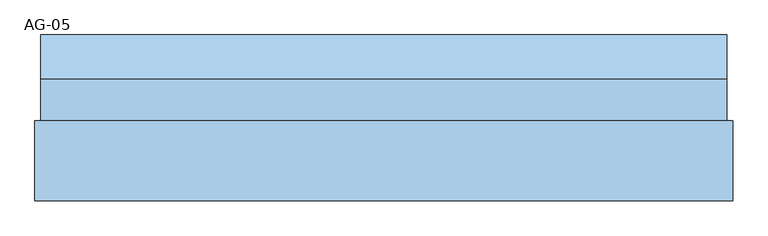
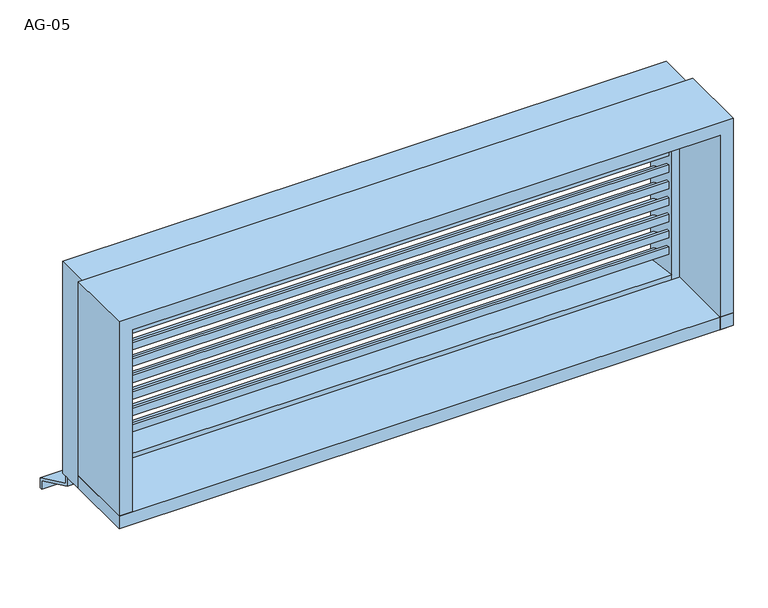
"""IFC4 building model written with IfcOpenShell, lengths in millimetres: window geometry, 営_単窓_ガラリ : AG-05."""

import ifcopenshell
import ifcopenshell.guid

model = None  # the IFC model being written
_history = None  # IfcOwnerHistory: only IFC2X3 demands one
_inside = {}  # id of a spatial element -> (the spatial element, [elements in it])
_under = {}  # id of a project, library or spatial element -> (it, [spatial elements below it])
_declared = {}  # id of a project -> (the project, [libraries it declares])
_typed = {}  # id of a type object -> (the type object, [elements of that type])
_made_of = {}  # id of a material, layer set ... -> (it, [elements and type objects made of it])


def new_model(schema):
    """Start an empty IFC model of exactly this schema.

    Asked for "IFC4X3", IfcOpenShell would pick the latest addendum, in which some entities
    have other attributes; the version numbers below select the first issue.
    IFC2X3 requires an IfcOwnerHistory on every rooted entity: one is made here for all.
    """
    global model, _history
    if schema == "IFC4X3":
        model = ifcopenshell.file(schema_version=(4, 3, 0, 0))
    else:
        model = ifcopenshell.file(schema=schema)
    _inside.clear()
    _under.clear()
    _declared.clear()
    _typed.clear()
    _made_of.clear()
    _history = None
    if model.schema == "IFC2X3":
        org = make("IfcOrganization", Name="unknown")
        user = make(
            "IfcPersonAndOrganization",
            ThePerson=make("IfcPerson", FamilyName="unknown"),
            TheOrganization=org,
        )
        app = make(
            "IfcApplication",
            ApplicationDeveloper=org,
            Version="unknown",
            ApplicationFullName="unknown",
            ApplicationIdentifier="unknown",
        )
        _history = make(
            "IfcOwnerHistory",
            OwningUser=user,
            OwningApplication=app,
            ChangeAction="ADDED",
            CreationDate=0,
        )
    return model


def make(cls, **values):
    """One entity of the class cls with the attributes given. An attribute that is None is left unset."""
    return model.create_entity(
        cls, **{name: value for name, value in values.items() if value is not None}
    )


def rooted(cls, **values):
    """An entity with a GlobalId (a new one), such as an element, a storey or a relation."""
    return make(cls, GlobalId=ifcopenshell.guid.new(), OwnerHistory=_history, **values)


def si_unit(unit_type, name, prefix=None):
    """IfcSIUnit, for example si_unit("LENGTHUNIT", "METRE", prefix="MILLI")."""
    return make("IfcSIUnit", UnitType=unit_type, Prefix=prefix, Name=name)


def assignment(units):
    """IfcUnitAssignment: the units of a project."""
    return None if units is None else make("IfcUnitAssignment", Units=units)


def point(xyz):
    """IfcCartesianPoint."""
    return None if xyz is None else make("IfcCartesianPoint", Coordinates=xyz)


def direction(xyz):
    """IfcDirection."""
    return None if xyz is None else make("IfcDirection", DirectionRatios=xyz)


def frame(location, z_axis=None, x_axis=None):
    """IfcAxis2Placement3D, a coordinate frame: its origin and axes. An axis left out is left unset."""
    return make(
        "IfcAxis2Placement3D",
        Location=point(location),
        Axis=direction(z_axis),
        RefDirection=direction(x_axis),
    )


def origin():
    """The frame at (0, 0, 0) with its axes left unset."""
    return frame((0.0, 0.0, 0.0))


def place(relative_to, where):
    """IfcLocalPlacement: puts the frame where relative to a parent placement (None: the world)."""
    return make(
        "IfcLocalPlacement", PlacementRelTo=relative_to, RelativePlacement=where
    )


def context(
    kind, dimensions, precision=None, world=None, true_north=None, identifier=None
):
    """IfcGeometricRepresentationContext, for example the 3D "Model" context."""
    return make(
        "IfcGeometricRepresentationContext",
        ContextIdentifier=identifier,
        ContextType=kind,
        CoordinateSpaceDimension=dimensions,
        Precision=precision,
        WorldCoordinateSystem=world,
        TrueNorth=true_north,
    )


def project(units=None, contexts=None):
    """IfcProject with its units and contexts."""
    return rooted(
        "IfcProject",
        Name="project",
        RepresentationContexts=contexts,
        UnitsInContext=assignment(units),
    )


def spatial(cls, under=None, at=None, **own):
    """A site, building, storey or space (cls), placed at a placement, below another one or the project."""
    s = rooted(cls, ObjectPlacement=at, **own)
    if under is not None:
        _under.setdefault(under.id(), (under, []))[1].append(s)
    return s


def polyline(points):
    """IfcPolyline through the points."""
    return make("IfcPolyline", Points=[point(p) for p in points])


def outline(outer, holes=None, kind="AREA"):
    """IfcArbitraryClosedProfileDef: a profile drawn as a closed curve; with holes, ...WithVoids."""
    if holes is None:
        return make("IfcArbitraryClosedProfileDef", ProfileType=kind, OuterCurve=outer)
    return make(
        "IfcArbitraryProfileDefWithVoids",
        ProfileType=kind,
        OuterCurve=outer,
        InnerCurves=holes,
    )


def extrude(swept, where, along, depth):
    """IfcExtrudedAreaSolid: the profile swept, set in the frame where, extruded along a direction by depth."""
    return make(
        "IfcExtrudedAreaSolid",
        SweptArea=swept,
        Position=where,
        ExtrudedDirection=direction(along),
        Depth=depth,
    )


def shape(context_of_items, identifier, shape_type, items):
    """IfcShapeRepresentation: the items that make up one representation, for example the "Body"."""
    return make(
        "IfcShapeRepresentation",
        ContextOfItems=context_of_items,
        RepresentationIdentifier=identifier,
        RepresentationType=shape_type,
        Items=items,
    )


def source(mapping_origin, context_of_items, identifier, shape_type, items):
    """IfcRepresentationMap: a shape defined once, which mapped items show again and again."""
    return make(
        "IfcRepresentationMap",
        MappingOrigin=mapping_origin,
        MappedRepresentation=shape(context_of_items, identifier, shape_type, items),
    )


def transform(
    local_origin,
    x_axis=None,
    y_axis=None,
    z_axis=None,
    scale=None,
    scale2=None,
    scale3=None,
    uniform=True,
):
    """IfcCartesianTransformationOperator3D, or its non-uniform kind. x_axis, y_axis, z_axis: its Axis1, 2, 3."""
    if uniform:
        return make(
            "IfcCartesianTransformationOperator3D",
            Axis1=direction(x_axis),
            Axis2=direction(y_axis),
            LocalOrigin=point(local_origin),
            Scale=scale,
            Axis3=direction(z_axis),
        )
    return make(
        "IfcCartesianTransformationOperator3DnonUniform",
        Axis1=direction(x_axis),
        Axis2=direction(y_axis),
        LocalOrigin=point(local_origin),
        Scale=scale,
        Axis3=direction(z_axis),
        Scale2=scale2,
        Scale3=scale3,
    )


def mapped(mapping_source, mapping_target):
    """IfcMappedItem: shows the shape of a source again, moved by a transform."""
    return make(
        "IfcMappedItem", MappingSource=mapping_source, MappingTarget=mapping_target
    )


def made_of(thing, what):
    """Note that an element or type object is made of a material, layer set ...; save() writes the relation."""
    if what is not None:
        _made_of.setdefault(what.id(), (what, []))[1].append(thing)
    return thing


def element(
    cls,
    number,
    at=None,
    inside=None,
    cuts=None,
    type_object=None,
    material=None,
    context=None,
    identifier="Body",
    shape_type=None,
    held_by="IfcProductDefinitionShape",
    body=None,
    shapes=None,
    **own,
):
    """One element of the class cls, such as IfcWall. Its Tag is "e" and its number.

    at: its placement. inside: the storey or other place that contains it. cuts: it is an
    opening in that element (IfcRelVoidsElement). A single representation is given by context,
    identifier, shape_type and body (its items); several are given by shapes. held_by: the class
    of the entity that holds the representations. save() writes the other relations.
    """
    e = rooted(cls, Tag="e%d" % number, ObjectPlacement=at, **own)
    if body is not None:
        shapes = [shape(context, identifier, shape_type, body)]
    if shapes is not None:
        e.Representation = make(held_by, Representations=shapes)
    if inside is not None:
        _inside.setdefault(inside.id(), (inside, []))[1].append(e)
    if cuts is not None:
        rooted(
            "IfcRelVoidsElement", RelatingBuildingElement=cuts, RelatedOpeningElement=e
        )
    if type_object is not None:
        _typed.setdefault(type_object.id(), (type_object, []))[1].append(e)
    return made_of(e, material)


def aggregate(whole, parts):
    """IfcRelAggregates: a whole, such as a stair, and the parts it consists of."""
    return rooted("IfcRelAggregates", RelatingObject=whole, RelatedObjects=parts)


def save(model, path):
    """Write the relations noted so far, then the file.

    IfcRelAggregates (storeys below a building ...), IfcRelContainedInSpatialStructure (elements
    in a storey), IfcRelDefinesByType, IfcRelAssociatesMaterial and IfcRelDeclares: one each for
    every whole, place, type object, material and project.
    """
    for whole, parts in _under.values():
        aggregate(whole, parts)
    for where, things in _inside.values():
        rooted(
            "IfcRelContainedInSpatialStructure",
            RelatedElements=things,
            RelatingStructure=where,
        )
    for kind, things in _typed.values():
        rooted("IfcRelDefinesByType", RelatedObjects=things, RelatingType=kind)
    for what, things in _made_of.values():
        rooted("IfcRelAssociatesMaterial", RelatedObjects=things, RelatingMaterial=what)
    for by, libraries in _declared.values():
        rooted("IfcRelDeclares", RelatingContext=by, RelatedDefinitions=libraries)
    model.write(path)


def ag_05_8d684ac1(model_context):
    return source(origin(), model_context, "Body", "SweptSolid", [
        extrude(outline(polyline([(15.0, 1484.9160321), (15.0, 1466.6666667), (10.0, 1466.6666667), (10.0, 1481.6666667), (-35.0, 1501.6666667), (-35.0, 1516.6666667), (-30.0, 1516.6666667), (-30.0, 1504.9160321), (15.0, 1484.9160321)])), frame((-550.0, 0.0, 0.0), z_axis=(1.0, 0.0, 0.0), x_axis=(0.0, 1.0, 0.0)), (0.0, 0.0, 1.0), 1100.0),
        extrude(outline(polyline([(15.0, 1451.5826988), (15.0, 1433.3333333), (10.0, 1433.3333333), (10.0, 1448.3333333), (-35.0, 1468.3333333), (-35.0, 1483.3333333), (-30.0, 1483.3333333), (-30.0, 1471.5826988), (15.0, 1451.5826988)])), frame((-550.0, 0.0, 0.0), z_axis=(1.0, 0.0, 0.0), x_axis=(0.0, 1.0, 0.0)), (0.0, 0.0, 1.0), 1100.0),
        extrude(outline(polyline([(15.0, 1418.2493654), (15.0, 1400.0), (10.0, 1400.0), (10.0, 1415.0), (-35.0, 1435.0), (-35.0, 1450.0), (-30.0, 1450.0), (-30.0, 1438.2493654), (15.0, 1418.2493654)])), frame((-550.0, 0.0, 0.0), z_axis=(1.0, 0.0, 0.0), x_axis=(0.0, 1.0, 0.0)), (0.0, 0.0, 1.0), 1100.0),
        extrude(outline(polyline([(15.0, 1384.9160321), (15.0, 1366.6666667), (10.0, 1366.6666667), (10.0, 1381.6666667), (-35.0, 1401.6666667), (-35.0, 1416.6666667), (-30.0, 1416.6666667), (-30.0, 1404.9160321), (15.0, 1384.9160321)])), frame((-550.0, 0.0, 0.0), z_axis=(1.0, 0.0, 0.0), x_axis=(0.0, 1.0, 0.0)), (0.0, 0.0, 1.0), 1100.0),
        extrude(outline(polyline([(15.0, 1351.5826988), (15.0, 1333.3333333), (10.0, 1333.3333333), (10.0, 1348.3333333), (-35.0, 1368.3333333), (-35.0, 1383.3333333), (-30.0, 1383.3333333), (-30.0, 1371.5826988), (15.0, 1351.5826988)])), frame((-550.0, 0.0, 0.0), z_axis=(1.0, 0.0, 0.0), x_axis=(0.0, 1.0, 0.0)), (0.0, 0.0, 1.0), 1100.0),
        extrude(outline(polyline([(15.0, 1318.2493654), (15.0, 1300.0), (10.0, 1300.0), (10.0, 1315.0), (-35.0, 1335.0), (-35.0, 1350.0), (-30.0, 1350.0), (-30.0, 1338.2493654), (15.0, 1318.2493654)])), frame((-550.0, 0.0, 0.0), z_axis=(1.0, 0.0, 0.0), x_axis=(0.0, 1.0, 0.0)), (0.0, 0.0, 1.0), 1100.0),
        extrude(outline(polyline([(15.0, 1284.9160321), (15.0, 1266.6666667), (10.0, 1266.6666667), (10.0, 1281.6666667), (-35.0, 1301.6666667), (-35.0, 1316.6666667), (-30.0, 1316.6666667), (-30.0, 1304.9160321), (15.0, 1284.9160321)])), frame((-550.0, 0.0, 0.0), z_axis=(1.0, 0.0, 0.0), x_axis=(0.0, 1.0, 0.0)), (0.0, 0.0, 1.0), 1100.0),
        extrude(outline(polyline([(15.0, 1251.5826988), (15.0, 1233.3333333), (10.0, 1233.3333333), (10.0, 1248.3333333), (-35.0, 1268.3333333), (-35.0, 1283.3333333), (-30.0, 1283.3333333), (-30.0, 1271.5826988), (15.0, 1251.5826988)])), frame((-550.0, 0.0, 0.0), z_axis=(1.0, 0.0, 0.0), x_axis=(0.0, 1.0, 0.0)), (0.0, 0.0, 1.0), 1100.0),
        extrude(outline(polyline([(15.0, 1518.2493654), (15.0, 1500.0), (10.0, 1500.0), (10.0, 1515.0), (-35.0, 1535.0), (-35.0, 1550.0), (-30.0, 1550.0), (-30.0, 1538.2493654), (15.0, 1518.2493654)])), frame((-550.0, 0.0, 0.0), z_axis=(1.0, 0.0, 0.0), x_axis=(0.0, 1.0, 0.0)), (0.0, 0.0, 1.0), 1100.0),
        extrude(outline(polyline([(15.0, 1218.2493654), (15.0, 1200.0), (10.0, 1200.0), (10.0, 1215.0), (-35.0, 1235.0), (-35.0, 1250.0), (-30.0, 1250.0), (-30.0, 1238.2493654), (15.0, 1218.2493654)])), frame((-550.0, 0.0, 0.0), z_axis=(1.0, 0.0, 0.0), x_axis=(0.0, 1.0, 0.0)), (0.0, 0.0, 1.0), 1100.0),
        extrude(outline(polyline([(590.0, -180.0), (-590.0, -180.0), (-590.0, -45.0), (590.0, -45.0), (590.0, -180.0)])), frame((0.0, 0.0, 1165.0), z_axis=(0.0, 0.0, 1.0), x_axis=(1.0, 0.0, 0.0)), (0.0, 0.0, 1.0), 25.0),
        extrude(outline(polyline([(15.0, 1135.0), (100.0, 1095.0), (100.0, 1075.0), (95.0014518, 1075.0), (95.0014518, 1091.8262891), (10.0, 1131.8269723), (10.0, 1150.0), (15.0, 1150.0), (15.0, 1135.0)])), frame((-580.0, 0.0, 0.0), z_axis=(1.0, 0.0, 0.0), x_axis=(0.0, 1.0, 0.0)), (0.0, 0.0, 1.0), 1160.0),
        extrude(outline(polyline([(1165.0, -590.0), (1165.0, -565.0), (1560.0, -565.0), (1560.0, 565.0), (1165.0, 565.0), (1165.0, 590.0), (1585.0, 590.0), (1585.0, -590.0), (1165.0, -590.0)])), frame((0.0, -180.0, 0.0), z_axis=(0.0, 1.0, 0.0), x_axis=(0.0, 0.0, 1.0)), (0.0, 0.0, 1.0), 135.0),
        extrude(outline(polyline([(1150.0, -580.0), (1150.0, -550.0), (1550.0, -550.0), (1550.0, 550.0), (1150.0, 550.0), (1150.0, 580.0), (1580.0, 580.0), (1580.0, -580.0), (1150.0, -580.0)])), frame((0.0, -45.0, 0.0), z_axis=(0.0, 1.0, 0.0), x_axis=(0.0, 0.0, 1.0)), (0.0, 0.0, 1.0), 70.0),
        extrude(outline(polyline([(-45.0, 1150.0), (-45.0, 1200.0), (25.0, 1190.6666667), (25.0, 1150.0), (-45.0, 1150.0)])), frame((-550.0, 0.0, 0.0), z_axis=(1.0, 0.0, 0.0), x_axis=(0.0, 1.0, 0.0)), (0.0, 0.0, 1.0), 1100.0),
    ])


if __name__ == "__main__":
    model = new_model("IFC4")
    model_context = context("Model", 3, world=origin())
    ifc_project = project(units=[si_unit("LENGTHUNIT", "METRE", prefix="MILLI")], contexts=[model_context])
    site = spatial("IfcSite", under=ifc_project)
    building = spatial("IfcBuilding", under=site)
    placement = place(None, origin())
    ag_05_shape = ag_05_8d684ac1(model_context)
    element("IfcWindow", 1, ObjectType="営_単窓_ガラリ : AG-05", at=placement, inside=building, context=model_context, shape_type="MappedRepresentation", body=[
        mapped(ag_05_shape, transform((0.0, 0.0, 0.0), x_axis=(1.0, 0.0, 0.0), y_axis=(0.0, 1.0, 0.0), z_axis=(0.0, 0.0, 1.0))),
    ])
    save(model, "model.ifc")
